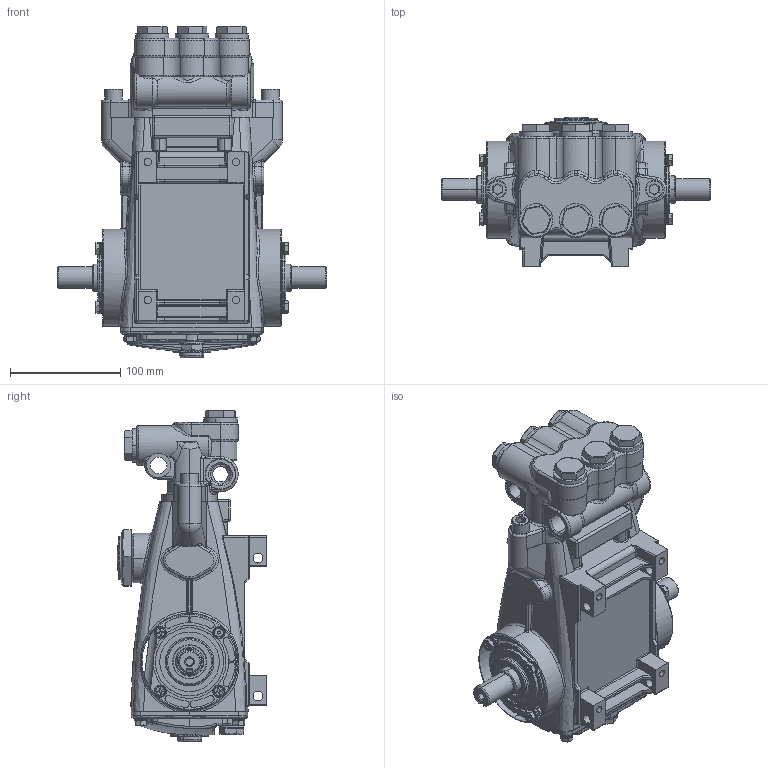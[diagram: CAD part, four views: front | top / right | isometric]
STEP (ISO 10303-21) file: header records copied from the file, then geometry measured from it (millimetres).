
FILE_DESCRIPTION (( 'STEP AP214' ), '1' );
FILE_NAME ('317.STEP', '2012-11-23T08:28:01', ( '' ), ( '' ), 'SwSTEP 2.0', 'SolidWorks 2012', '' );
FILE_SCHEMA (( 'AUTOMOTIVE_DESIGN' ));
Length unit declared in the file: millimetre
Products named in the file (1): 317
Bounding box: 244 x 135.57 x 300.5 mm (x, y, z)
Volume: 1574505.4 mm3; surface area: 424945.3 mm2
Topology: 1 solids, 49 shells, 3802 faces, 9674 edges, 6151 vertices
Faces by surface type: plane 1590, cylinder 1085, bspline 600, torus 310, cone 190, sphere 27
Entity records: 175236 total; most frequent: CARTESIAN_POINT 60148, ORIENTED_EDGE 19284, DIRECTION 16328, EDGE_CURVE 9642, VERTEX_POINT 6151, AXIS2_PLACEMENT_3D 5740, VECTOR 4848, LINE 4848
